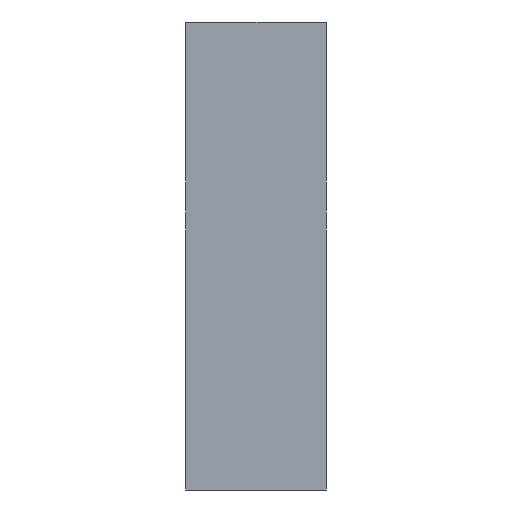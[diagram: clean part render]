
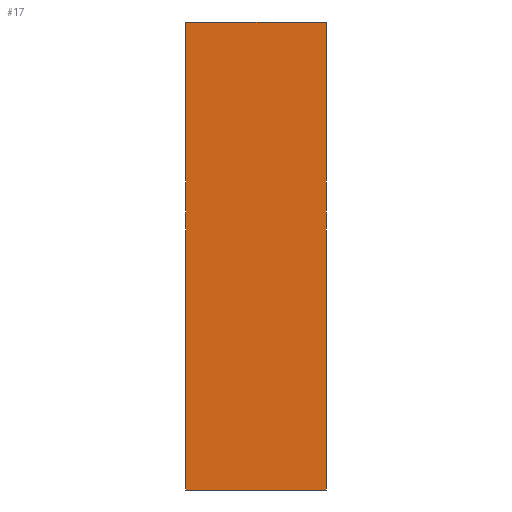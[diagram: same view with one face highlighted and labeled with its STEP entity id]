
A CAD part, left-side view. The second image highlights one B-rep face of the part: STEP entity #17.
In plain terms, the highlighted planar face has unit normal (-1, 0, 0).
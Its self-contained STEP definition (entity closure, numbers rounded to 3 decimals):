
#17 = ADVANCED_FACE('',(#18),#32,.F.);
#18 = FACE_BOUND('',#19,.F.);
#19 = EDGE_LOOP('',(#20,#55,#83,#111));
#20 = ORIENTED_EDGE('',*,*,#21,.F.);
#21 = EDGE_CURVE('',#22,#24,#26,.T.);
#22 = VERTEX_POINT('',#23);
#23 = CARTESIAN_POINT('',(-3.,-1.5,-5.));
#24 = VERTEX_POINT('',#25);
#25 = CARTESIAN_POINT('',(-3.,-1.5,5.));
#26 = SURFACE_CURVE('',#27,(#31,#43),.PCURVE_S1.);
#27 = LINE('',#28,#29);
#28 = CARTESIAN_POINT('',(-3.,-1.5,-5.));
#29 = VECTOR('',#30,1.);
#30 = DIRECTION('',(0.,0.,1.));
#31 = PCURVE('',#32,#37);
#32 = PLANE('',#33);
#33 = AXIS2_PLACEMENT_3D('',#34,#35,#36);
#34 = CARTESIAN_POINT('',(-3.,-1.5,-5.));
#35 = DIRECTION('',(1.,0.,-0.));
#36 = DIRECTION('',(0.,0.,1.));
#37 = DEFINITIONAL_REPRESENTATION('',(#38),#42);
#38 = LINE('',#39,#40);
#39 = CARTESIAN_POINT('',(0.,0.));
#40 = VECTOR('',#41,1.);
#41 = DIRECTION('',(1.,0.));
#42 = ( GEOMETRIC_REPRESENTATION_CONTEXT(2) 
PARAMETRIC_REPRESENTATION_CONTEXT() REPRESENTATION_CONTEXT('2D SPACE',''
  ) );
#43 = PCURVE('',#44,#49);
#44 = PLANE('',#45);
#45 = AXIS2_PLACEMENT_3D('',#46,#47,#48);
#46 = CARTESIAN_POINT('',(-3.,-1.5,-5.));
#47 = DIRECTION('',(-0.,1.,0.));
#48 = DIRECTION('',(0.,0.,1.));
#49 = DEFINITIONAL_REPRESENTATION('',(#50),#54);
#50 = LINE('',#51,#52);
#51 = CARTESIAN_POINT('',(0.,0.));
#52 = VECTOR('',#53,1.);
#53 = DIRECTION('',(1.,0.));
#54 = ( GEOMETRIC_REPRESENTATION_CONTEXT(2) 
PARAMETRIC_REPRESENTATION_CONTEXT() REPRESENTATION_CONTEXT('2D SPACE',''
  ) );
#55 = ORIENTED_EDGE('',*,*,#56,.T.);
#56 = EDGE_CURVE('',#22,#57,#59,.T.);
#57 = VERTEX_POINT('',#58);
#58 = CARTESIAN_POINT('',(-3.,1.5,-5.));
#59 = SURFACE_CURVE('',#60,(#64,#71),.PCURVE_S1.);
#60 = LINE('',#61,#62);
#61 = CARTESIAN_POINT('',(-3.,-1.5,-5.));
#62 = VECTOR('',#63,1.);
#63 = DIRECTION('',(-0.,1.,0.));
#64 = PCURVE('',#32,#65);
#65 = DEFINITIONAL_REPRESENTATION('',(#66),#70);
#66 = LINE('',#67,#68);
#67 = CARTESIAN_POINT('',(0.,0.));
#68 = VECTOR('',#69,1.);
#69 = DIRECTION('',(0.,-1.));
#70 = ( GEOMETRIC_REPRESENTATION_CONTEXT(2) 
PARAMETRIC_REPRESENTATION_CONTEXT() REPRESENTATION_CONTEXT('2D SPACE',''
  ) );
#71 = PCURVE('',#72,#77);
#72 = PLANE('',#73);
#73 = AXIS2_PLACEMENT_3D('',#74,#75,#76);
#74 = CARTESIAN_POINT('',(-3.,-1.5,-5.));
#75 = DIRECTION('',(0.,0.,1.));
#76 = DIRECTION('',(1.,0.,-0.));
#77 = DEFINITIONAL_REPRESENTATION('',(#78),#82);
#78 = LINE('',#79,#80);
#79 = CARTESIAN_POINT('',(0.,0.));
#80 = VECTOR('',#81,1.);
#81 = DIRECTION('',(0.,1.));
#82 = ( GEOMETRIC_REPRESENTATION_CONTEXT(2) 
PARAMETRIC_REPRESENTATION_CONTEXT() REPRESENTATION_CONTEXT('2D SPACE',''
  ) );
#83 = ORIENTED_EDGE('',*,*,#84,.T.);
#84 = EDGE_CURVE('',#57,#85,#87,.T.);
#85 = VERTEX_POINT('',#86);
#86 = CARTESIAN_POINT('',(-3.,1.5,5.));
#87 = SURFACE_CURVE('',#88,(#92,#99),.PCURVE_S1.);
#88 = LINE('',#89,#90);
#89 = CARTESIAN_POINT('',(-3.,1.5,-5.));
#90 = VECTOR('',#91,1.);
#91 = DIRECTION('',(0.,0.,1.));
#92 = PCURVE('',#32,#93);
#93 = DEFINITIONAL_REPRESENTATION('',(#94),#98);
#94 = LINE('',#95,#96);
#95 = CARTESIAN_POINT('',(0.,-3.));
#96 = VECTOR('',#97,1.);
#97 = DIRECTION('',(1.,0.));
#98 = ( GEOMETRIC_REPRESENTATION_CONTEXT(2) 
PARAMETRIC_REPRESENTATION_CONTEXT() REPRESENTATION_CONTEXT('2D SPACE',''
  ) );
#99 = PCURVE('',#100,#105);
#100 = PLANE('',#101);
#101 = AXIS2_PLACEMENT_3D('',#102,#103,#104);
#102 = CARTESIAN_POINT('',(-3.,1.5,-5.));
#103 = DIRECTION('',(-0.,1.,0.));
#104 = DIRECTION('',(0.,0.,1.));
#105 = DEFINITIONAL_REPRESENTATION('',(#106),#110);
#106 = LINE('',#107,#108);
#107 = CARTESIAN_POINT('',(0.,0.));
#108 = VECTOR('',#109,1.);
#109 = DIRECTION('',(1.,0.));
#110 = ( GEOMETRIC_REPRESENTATION_CONTEXT(2) 
PARAMETRIC_REPRESENTATION_CONTEXT() REPRESENTATION_CONTEXT('2D SPACE',''
  ) );
#111 = ORIENTED_EDGE('',*,*,#112,.F.);
#112 = EDGE_CURVE('',#24,#85,#113,.T.);
#113 = SURFACE_CURVE('',#114,(#118,#125),.PCURVE_S1.);
#114 = LINE('',#115,#116);
#115 = CARTESIAN_POINT('',(-3.,-1.5,5.));
#116 = VECTOR('',#117,1.);
#117 = DIRECTION('',(-0.,1.,0.));
#118 = PCURVE('',#32,#119);
#119 = DEFINITIONAL_REPRESENTATION('',(#120),#124);
#120 = LINE('',#121,#122);
#121 = CARTESIAN_POINT('',(10.,0.));
#122 = VECTOR('',#123,1.);
#123 = DIRECTION('',(0.,-1.));
#124 = ( GEOMETRIC_REPRESENTATION_CONTEXT(2) 
PARAMETRIC_REPRESENTATION_CONTEXT() REPRESENTATION_CONTEXT('2D SPACE',''
  ) );
#125 = PCURVE('',#126,#131);
#126 = PLANE('',#127);
#127 = AXIS2_PLACEMENT_3D('',#128,#129,#130);
#128 = CARTESIAN_POINT('',(-3.,-1.5,5.));
#129 = DIRECTION('',(0.,0.,1.));
#130 = DIRECTION('',(1.,0.,-0.));
#131 = DEFINITIONAL_REPRESENTATION('',(#132),#136);
#132 = LINE('',#133,#134);
#133 = CARTESIAN_POINT('',(0.,0.));
#134 = VECTOR('',#135,1.);
#135 = DIRECTION('',(0.,1.));
#136 = ( GEOMETRIC_REPRESENTATION_CONTEXT(2) 
PARAMETRIC_REPRESENTATION_CONTEXT() REPRESENTATION_CONTEXT('2D SPACE',''
  ) );
